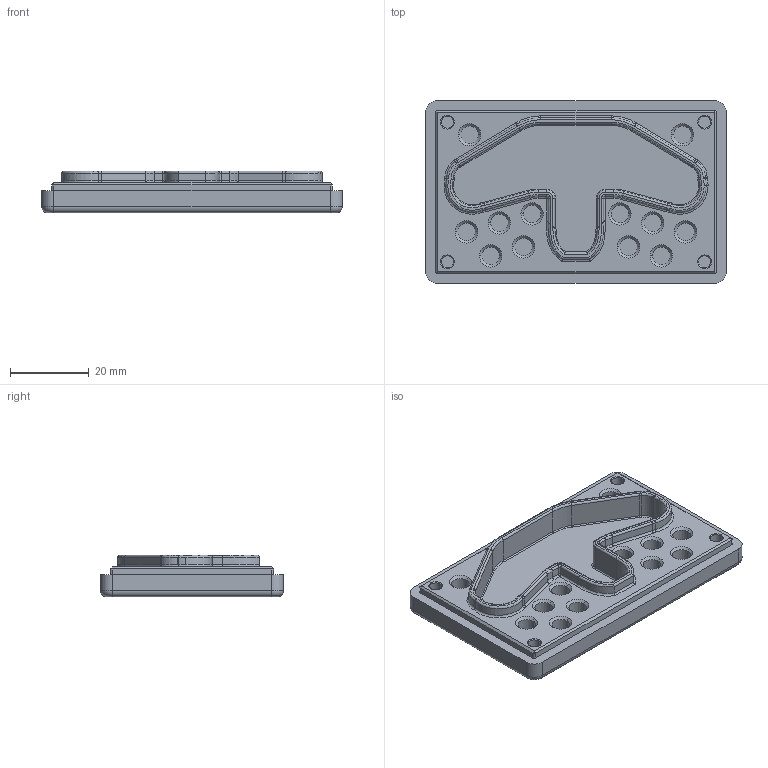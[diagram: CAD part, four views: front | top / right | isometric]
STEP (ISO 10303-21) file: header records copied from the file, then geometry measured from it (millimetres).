
FILE_DESCRIPTION (( 'STEP AP214' ), '1' );
FILE_NAME ('Case Bottom w Foam.STEP', '2023-02-12T19:31:34', ( '' ), ( '' ), 'SwSTEP 2.0', 'SolidWorks 2022', '' );
FILE_SCHEMA (( 'AUTOMOTIVE_DESIGN' ));
Length unit declared in the file: millimetre
Products named in the file (1): Case Bottom w Foam
Bounding box: 76.42 x 46.5 x 10.6 mm (x, y, z)
Volume: 20696.4 mm3; surface area: 11540.3 mm2
Topology: 1 solids, 1 shells, 305 faces, 688 edges, 398 vertices
Faces by surface type: cylinder 128, torus 66, plane 61, cone 36, bspline 14
Entity records: 9327 total; most frequent: CARTESIAN_POINT 2487, DIRECTION 1536, ORIENTED_EDGE 1364, EDGE_CURVE 682, AXIS2_PLACEMENT_3D 627, VERTEX_POINT 398, CIRCLE 335, EDGE_LOOP 324
